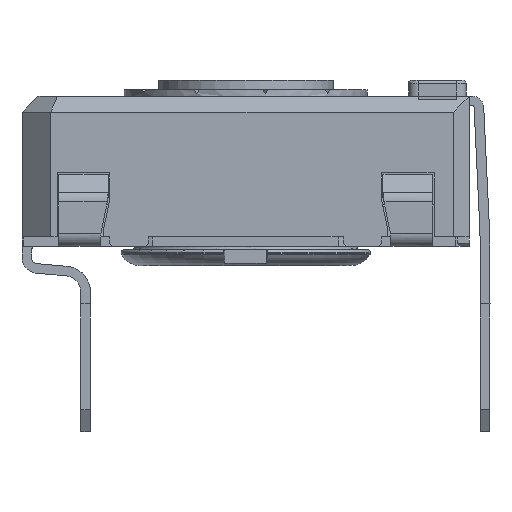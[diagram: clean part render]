
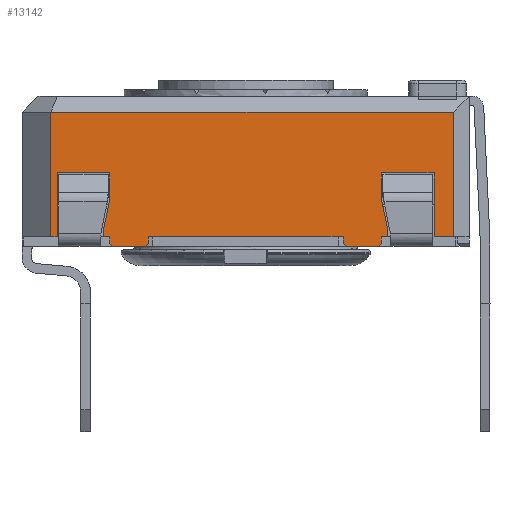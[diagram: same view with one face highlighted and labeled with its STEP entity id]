
A CAD part, left-side view. The second image highlights one B-rep face of the part: STEP entity #13142.
In plain terms, the highlighted planar face has unit normal (-1, 0, 0).
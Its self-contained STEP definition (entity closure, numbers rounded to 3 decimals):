
#1026=FACE_OUTER_BOUND('',#1712,.T.);
#1712=EDGE_LOOP('',(#10488,#10489,#10490,#10491,#10492,#10493,#10494,#10495,
#10496,#10497,#10498,#10499,#10500,#10501,#10502,#10503,#10504,#10505,#10506,
#10507,#10508,#10509,#10510,#10511,#10512,#10513,#10514,#10515));
#2712=LINE('',#20106,#4223);
#2718=LINE('',#20118,#4229);
#2721=LINE('',#20125,#4232);
#2726=LINE('',#20134,#4237);
#2746=LINE('',#20175,#4257);
#2760=LINE('',#20201,#4271);
#2764=LINE('',#20208,#4275);
#2779=LINE('',#20237,#4290);
#2782=LINE('',#20243,#4293);
#2787=LINE('',#20253,#4298);
#2790=LINE('',#20259,#4301);
#2793=LINE('',#20265,#4304);
#2811=LINE('',#20300,#4322);
#2823=LINE('',#20322,#4334);
#2826=LINE('',#20328,#4337);
#2863=LINE('',#20462,#4374);
#2866=LINE('',#20468,#4377);
#2892=LINE('',#20515,#4403);
#2897=LINE('',#20525,#4408);
#2899=LINE('',#20528,#4410);
#3024=LINE('',#20839,#4535);
#3026=LINE('',#20844,#4537);
#3029=LINE('',#20848,#4540);
#3031=LINE('',#20852,#4542);
#3034=LINE('',#20860,#4545);
#3035=LINE('',#20862,#4546);
#3036=LINE('',#20863,#4547);
#3037=LINE('',#20864,#4548);
#4223=VECTOR('',#16098,10.);
#4229=VECTOR('',#16106,10.);
#4232=VECTOR('',#16111,10.);
#4237=VECTOR('',#16118,10.);
#4257=VECTOR('',#16152,10.);
#4271=VECTOR('',#16166,10.);
#4275=VECTOR('',#16170,10.);
#4290=VECTOR('',#16197,10.);
#4293=VECTOR('',#16202,10.);
#4298=VECTOR('',#16209,10.);
#4301=VECTOR('',#16214,10.);
#4304=VECTOR('',#16219,10.);
#4322=VECTOR('',#16239,10.);
#4334=VECTOR('',#16253,10.);
#4337=VECTOR('',#16258,10.);
#4374=VECTOR('',#16339,10.);
#4377=VECTOR('',#16344,10.);
#4403=VECTOR('',#16372,10.);
#4408=VECTOR('',#16379,10.);
#4410=VECTOR('',#16383,10.);
#4535=VECTOR('',#16674,10.);
#4537=VECTOR('',#16678,10.);
#4540=VECTOR('',#16683,10.);
#4542=VECTOR('',#16689,10.);
#4545=VECTOR('',#16700,10.);
#4546=VECTOR('',#16701,10.);
#4547=VECTOR('',#16702,10.);
#4548=VECTOR('',#16703,10.);
#5640=VERTEX_POINT('',#20103);
#5641=VERTEX_POINT('',#20105);
#5645=VERTEX_POINT('',#20115);
#5647=VERTEX_POINT('',#20121);
#5649=VERTEX_POINT('',#20124);
#5652=VERTEX_POINT('',#20132);
#5677=VERTEX_POINT('',#20198);
#5678=VERTEX_POINT('',#20200);
#5680=VERTEX_POINT('',#20205);
#5681=VERTEX_POINT('',#20207);
#5688=VERTEX_POINT('',#20234);
#5690=VERTEX_POINT('',#20240);
#5694=VERTEX_POINT('',#20250);
#5696=VERTEX_POINT('',#20256);
#5699=VERTEX_POINT('',#20263);
#5715=VERTEX_POINT('',#20298);
#5724=VERTEX_POINT('',#20320);
#5726=VERTEX_POINT('',#20326);
#5753=VERTEX_POINT('',#20460);
#5754=VERTEX_POINT('',#20465);
#5774=VERTEX_POINT('',#20512);
#5778=VERTEX_POINT('',#20522);
#5852=VERTEX_POINT('',#20836);
#5853=VERTEX_POINT('',#20838);
#5854=VERTEX_POINT('',#20842);
#5855=VERTEX_POINT('',#20843);
#5856=VERTEX_POINT('',#20859);
#5857=VERTEX_POINT('',#20861);
#7169=EDGE_CURVE('',#5641,#5640,#2712,.T.);
#7175=EDGE_CURVE('',#5640,#5645,#2718,.T.);
#7178=EDGE_CURVE('',#5649,#5647,#2721,.T.);
#7183=EDGE_CURVE('',#5652,#5647,#2726,.T.);
#7203=EDGE_CURVE('',#5645,#5649,#2746,.T.);
#7217=EDGE_CURVE('',#5678,#5677,#2760,.T.);
#7221=EDGE_CURVE('',#5681,#5680,#2764,.T.);
#7237=EDGE_CURVE('',#5677,#5688,#2779,.T.);
#7240=EDGE_CURVE('',#5688,#5690,#2782,.T.);
#7245=EDGE_CURVE('',#5690,#5694,#2787,.T.);
#7248=EDGE_CURVE('',#5694,#5696,#2790,.T.);
#7251=EDGE_CURVE('',#5696,#5699,#2793,.T.);
#7269=EDGE_CURVE('',#5699,#5715,#2811,.T.);
#7281=EDGE_CURVE('',#5724,#5715,#2823,.T.);
#7284=EDGE_CURVE('',#5726,#5724,#2826,.T.);
#7333=EDGE_CURVE('',#5753,#5726,#2863,.T.);
#7336=EDGE_CURVE('',#5753,#5754,#2866,.T.);
#7362=EDGE_CURVE('',#5754,#5774,#2892,.T.);
#7367=EDGE_CURVE('',#5774,#5778,#2897,.T.);
#7369=EDGE_CURVE('',#5778,#5641,#2899,.T.);
#7510=EDGE_CURVE('',#5852,#5853,#3024,.T.);
#7512=EDGE_CURVE('',#5854,#5855,#3026,.T.);
#7515=EDGE_CURVE('',#5678,#5852,#3029,.T.);
#7517=EDGE_CURVE('',#5680,#5855,#3031,.T.);
#7520=EDGE_CURVE('',#5652,#5856,#3034,.T.);
#7521=EDGE_CURVE('',#5857,#5856,#3035,.T.);
#7522=EDGE_CURVE('',#5681,#5857,#3036,.T.);
#7523=EDGE_CURVE('',#5854,#5853,#3037,.T.);
#10488=ORIENTED_EDGE('',*,*,#7175,.T.);
#10489=ORIENTED_EDGE('',*,*,#7203,.T.);
#10490=ORIENTED_EDGE('',*,*,#7178,.T.);
#10491=ORIENTED_EDGE('',*,*,#7183,.F.);
#10492=ORIENTED_EDGE('',*,*,#7520,.T.);
#10493=ORIENTED_EDGE('',*,*,#7521,.F.);
#10494=ORIENTED_EDGE('',*,*,#7522,.F.);
#10495=ORIENTED_EDGE('',*,*,#7221,.T.);
#10496=ORIENTED_EDGE('',*,*,#7517,.T.);
#10497=ORIENTED_EDGE('',*,*,#7512,.F.);
#10498=ORIENTED_EDGE('',*,*,#7523,.T.);
#10499=ORIENTED_EDGE('',*,*,#7510,.F.);
#10500=ORIENTED_EDGE('',*,*,#7515,.F.);
#10501=ORIENTED_EDGE('',*,*,#7217,.T.);
#10502=ORIENTED_EDGE('',*,*,#7237,.T.);
#10503=ORIENTED_EDGE('',*,*,#7240,.T.);
#10504=ORIENTED_EDGE('',*,*,#7245,.T.);
#10505=ORIENTED_EDGE('',*,*,#7248,.T.);
#10506=ORIENTED_EDGE('',*,*,#7251,.T.);
#10507=ORIENTED_EDGE('',*,*,#7269,.T.);
#10508=ORIENTED_EDGE('',*,*,#7281,.F.);
#10509=ORIENTED_EDGE('',*,*,#7284,.F.);
#10510=ORIENTED_EDGE('',*,*,#7333,.F.);
#10511=ORIENTED_EDGE('',*,*,#7336,.T.);
#10512=ORIENTED_EDGE('',*,*,#7362,.T.);
#10513=ORIENTED_EDGE('',*,*,#7367,.T.);
#10514=ORIENTED_EDGE('',*,*,#7369,.T.);
#10515=ORIENTED_EDGE('',*,*,#7169,.T.);
#12310=PLANE('',#14028);
#13142=ADVANCED_FACE('',(#1026),#12310,.T.);
#14028=AXIS2_PLACEMENT_3D('',#20858,#16698,#16699);
#16098=DIRECTION('',(0.,0.208,-0.978));
#16106=DIRECTION('',(0.,0.,-1.));
#16111=DIRECTION('',(0.,0.,-1.));
#16118=DIRECTION('',(0.,0.707,0.707));
#16152=DIRECTION('',(0.,-1.,0.));
#16166=DIRECTION('',(0.,-1.,0.));
#16170=DIRECTION('',(0.,-1.,0.));
#16197=DIRECTION('',(0.,0.,1.));
#16202=DIRECTION('',(0.,0.208,0.978));
#16209=DIRECTION('',(0.,0.,1.));
#16214=DIRECTION('',(0.,-1.,0.));
#16219=DIRECTION('',(0.,0.,-1.));
#16239=DIRECTION('',(0.,-1.,0.));
#16253=DIRECTION('',(0.,0.,-1.));
#16258=DIRECTION('',(0.,-1.,0.));
#16339=DIRECTION('',(0.,0.,1.));
#16344=DIRECTION('',(0.,-1.,0.));
#16372=DIRECTION('',(0.,0.,1.));
#16379=DIRECTION('',(0.,-1.,0.));
#16383=DIRECTION('',(0.,0.,-1.));
#16674=DIRECTION('',(0.,0.707,-0.707));
#16678=DIRECTION('',(0.,0.707,0.707));
#16683=DIRECTION('',(0.,0.,-1.));
#16689=DIRECTION('',(0.,0.,-1.));
#16698=DIRECTION('center_axis',(-1.,0.,0.));
#16699=DIRECTION('ref_axis',(0.,0.,1.));
#16700=DIRECTION('',(0.,-1.,0.));
#16701=DIRECTION('',(0.,0.707,-0.707));
#16702=DIRECTION('',(0.,0.,-1.));
#16703=DIRECTION('',(0.,-1.,0.));
#20103=CARTESIAN_POINT('',(-14.467,1.552,0.235));
#20105=CARTESIAN_POINT('',(-14.467,1.352,1.176));
#20106=CARTESIAN_POINT('',(-14.467,1.228,1.757));
#20115=CARTESIAN_POINT('',(-14.467,1.552,0.));
#20118=CARTESIAN_POINT('',(-14.467,1.552,0.));
#20121=CARTESIAN_POINT('',(-14.467,1.352,-0.2));
#20124=CARTESIAN_POINT('',(-14.467,1.352,0.));
#20125=CARTESIAN_POINT('',(-14.467,1.352,0.));
#20132=CARTESIAN_POINT('',(-14.467,1.252,-0.3));
#20134=CARTESIAN_POINT('',(-14.467,-1.436,-2.988));
#20175=CARTESIAN_POINT('',(-14.467,4.102,0.));
#20198=CARTESIAN_POINT('',(-14.467,-7.348,0.));
#20200=CARTESIAN_POINT('',(-14.467,-7.148,0.));
#20201=CARTESIAN_POINT('',(-14.467,4.102,0.));
#20205=CARTESIAN_POINT('',(-14.467,-5.948,0.));
#20207=CARTESIAN_POINT('',(-14.467,0.152,0.));
#20208=CARTESIAN_POINT('',(-14.467,4.102,0.));
#20234=CARTESIAN_POINT('',(-14.467,-7.348,0.235));
#20237=CARTESIAN_POINT('',(-14.467,-7.348,0.118));
#20240=CARTESIAN_POINT('',(-14.467,-7.148,1.176));
#20243=CARTESIAN_POINT('',(-14.467,-7.453,-0.254));
#20250=CARTESIAN_POINT('',(-14.467,-7.148,2.));
#20253=CARTESIAN_POINT('',(-14.467,-7.148,0.588));
#20256=CARTESIAN_POINT('',(-14.467,-8.798,2.));
#20259=CARTESIAN_POINT('',(-14.467,-8.523,2.));
#20263=CARTESIAN_POINT('',(-14.467,-8.798,0.));
#20265=CARTESIAN_POINT('',(-14.467,-8.798,0.));
#20298=CARTESIAN_POINT('',(-14.467,-9.398,0.));
#20300=CARTESIAN_POINT('',(-14.467,-9.595,0.));
#20320=CARTESIAN_POINT('',(-14.467,-9.398,3.9));
#20322=CARTESIAN_POINT('',(-14.467,-9.398,0.));
#20326=CARTESIAN_POINT('',(-14.467,3.202,3.9));
#20328=CARTESIAN_POINT('',(-14.467,-6.398,3.9));
#20460=CARTESIAN_POINT('',(-14.467,3.202,0.));
#20462=CARTESIAN_POINT('',(-14.467,3.202,0.));
#20465=CARTESIAN_POINT('',(-14.467,3.002,0.));
#20468=CARTESIAN_POINT('',(-14.467,-2.985,0.));
#20512=CARTESIAN_POINT('',(-14.467,3.002,2.));
#20515=CARTESIAN_POINT('',(-14.467,3.002,0.));
#20522=CARTESIAN_POINT('',(-14.467,1.352,2.));
#20525=CARTESIAN_POINT('',(-14.467,-3.448,2.));
#20528=CARTESIAN_POINT('',(-14.467,1.352,1.));
#20836=CARTESIAN_POINT('',(-14.467,-7.148,-0.2));
#20838=CARTESIAN_POINT('',(-14.467,-7.048,-0.3));
#20839=CARTESIAN_POINT('',(-14.467,-7.861,0.513));
#20842=CARTESIAN_POINT('',(-14.467,-6.048,-0.3));
#20843=CARTESIAN_POINT('',(-14.467,-5.948,-0.2));
#20844=CARTESIAN_POINT('',(-14.467,-6.911,-1.163));
#20848=CARTESIAN_POINT('',(-14.467,-7.148,0.));
#20852=CARTESIAN_POINT('',(-14.467,-5.948,0.));
#20858=CARTESIAN_POINT('Origin',(-14.467,-9.898,0.));
#20859=CARTESIAN_POINT('',(-14.467,0.252,-0.3));
#20860=CARTESIAN_POINT('',(-14.467,0.152,-0.3));
#20861=CARTESIAN_POINT('',(-14.467,0.152,-0.2));
#20862=CARTESIAN_POINT('',(-14.467,-2.386,2.338));
#20863=CARTESIAN_POINT('',(-14.467,0.152,0.));
#20864=CARTESIAN_POINT('',(-14.467,-7.148,-0.3));
